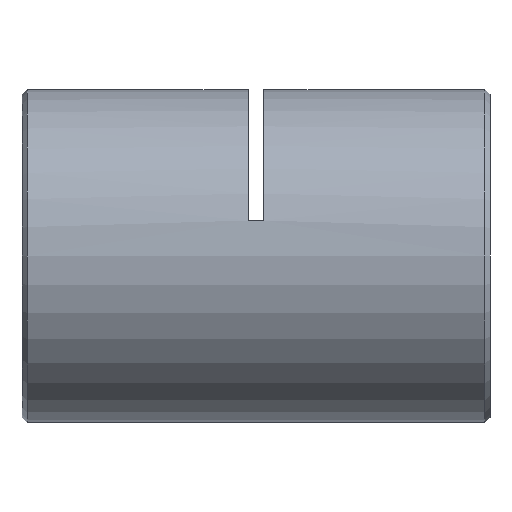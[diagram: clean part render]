
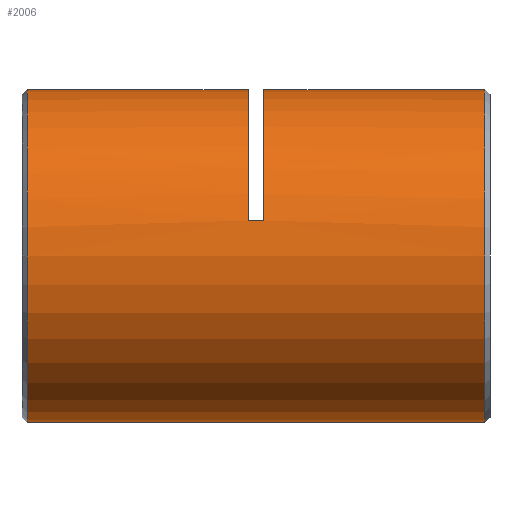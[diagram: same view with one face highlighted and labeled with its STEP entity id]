
A CAD part, left-side view. The second image highlights one B-rep face of the part: STEP entity #2006.
In plain terms, the highlighted cylindrical face has radius 16 mm (diameter 32 mm), a partial arc.
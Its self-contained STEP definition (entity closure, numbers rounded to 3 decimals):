
#71 = CARTESIAN_POINT ( 'NONE',  ( 0., 0., 16. ) ) ;
#100 = CARTESIAN_POINT ( 'NONE',  ( -15.632, 23.5, 3.413 ) ) ;
#208 = LINE ( 'NONE', #6051, #1409 ) ;
#230 = CARTESIAN_POINT ( 'NONE',  ( 0., 22., 0. ) ) ;
#246 = EDGE_CURVE ( 'NONE', #2190, #3614, #2725, .T. ) ;
#274 = CIRCLE ( 'NONE', #1114, 16. ) ;
#433 = EDGE_CURVE ( 'NONE', #2356, #3669, #274, .T. ) ;
#456 = DIRECTION ( 'NONE',  ( 0., 1., 0. ) ) ;
#492 = CARTESIAN_POINT ( 'NONE',  ( 0., 44.75, 16. ) ) ;
#782 = CARTESIAN_POINT ( 'NONE',  ( -15.632, 22., 3.413 ) ) ;
#839 = VECTOR ( 'NONE', #5132, 1000. ) ;
#876 = CARTESIAN_POINT ( 'NONE',  ( 0., 23.5, 0. ) ) ;
#985 = ORIENTED_EDGE ( 'NONE', *, *, #433, .F. ) ;
#1007 = CARTESIAN_POINT ( 'NONE',  ( 0., 0.75, 16. ) ) ;
#1114 = AXIS2_PLACEMENT_3D ( 'NONE', #230, #2694, #2889 ) ;
#1264 = EDGE_CURVE ( 'NONE', #2143, #2888, #4130, .T. ) ;
#1270 = EDGE_CURVE ( 'NONE', #2143, #3614, #4621, .T. ) ;
#1312 = EDGE_CURVE ( 'NONE', #4083, #2048, #1352, .T. ) ;
#1326 = ORIENTED_EDGE ( 'NONE', *, *, #1270, .F. ) ;
#1352 = CIRCLE ( 'NONE', #2876, 16. ) ;
#1368 = CARTESIAN_POINT ( 'NONE',  ( 0., 23.5, 16. ) ) ;
#1405 = AXIS2_PLACEMENT_3D ( 'NONE', #1919, #3993, #4444 ) ;
#1409 = VECTOR ( 'NONE', #2153, 1000. ) ;
#1443 = AXIS2_PLACEMENT_3D ( 'NONE', #6203, #3675, #6235 ) ;
#1708 = AXIS2_PLACEMENT_3D ( 'NONE', #4891, #456, #2318 ) ;
#1752 = ORIENTED_EDGE ( 'NONE', *, *, #1312, .T. ) ;
#1794 = CARTESIAN_POINT ( 'NONE',  ( 0., 0., -16. ) ) ;
#1919 = CARTESIAN_POINT ( 'NONE',  ( 0., 44.75, 0. ) ) ;
#2006 = ADVANCED_FACE ( 'NONE', ( #2291 ), #2899, .T. ) ;
#2048 = VERTEX_POINT ( 'NONE', #1368 ) ;
#2136 = DIRECTION ( 'NONE',  ( 0., 1., 0. ) ) ;
#2143 = VERTEX_POINT ( 'NONE', #5013 ) ;
#2153 = DIRECTION ( 'NONE',  ( 0., 1., 0. ) ) ;
#2190 = VERTEX_POINT ( 'NONE', #492 ) ;
#2291 = FACE_OUTER_BOUND ( 'NONE', #2887, .T. ) ;
#2318 = DIRECTION ( 'NONE',  ( 0., 0., 1. ) ) ;
#2356 = VERTEX_POINT ( 'NONE', #782 ) ;
#2426 = DIRECTION ( 'NONE',  ( 0., 1., 0. ) ) ;
#2533 = CARTESIAN_POINT ( 'NONE',  ( 0., 22., 16. ) ) ;
#2536 = VECTOR ( 'NONE', #2136, 1000. ) ;
#2694 = DIRECTION ( 'NONE',  ( 0., 1., 0. ) ) ;
#2725 = CIRCLE ( 'NONE', #1405, 16. ) ;
#2876 = AXIS2_PLACEMENT_3D ( 'NONE', #876, #2426, #3344 ) ;
#2887 = EDGE_LOOP ( 'NONE', ( #1326, #5599, #3941, #985, #4799, #1752, #5943, #4068 ) ) ;
#2888 = VERTEX_POINT ( 'NONE', #1007 ) ;
#2889 = DIRECTION ( 'NONE',  ( 0., 0., 1. ) ) ;
#2899 = CYLINDRICAL_SURFACE ( 'NONE', #1708, 16. ) ;
#3013 = EDGE_CURVE ( 'NONE', #2048, #2190, #4479, .T. ) ;
#3344 = DIRECTION ( 'NONE',  ( 0., 0., 1. ) ) ;
#3614 = VERTEX_POINT ( 'NONE', #5294 ) ;
#3669 = VERTEX_POINT ( 'NONE', #2533 ) ;
#3675 = DIRECTION ( 'NONE',  ( 0., 1., 0. ) ) ;
#3941 = ORIENTED_EDGE ( 'NONE', *, *, #4870, .T. ) ;
#3993 = DIRECTION ( 'NONE',  ( 0., -1., 0. ) ) ;
#4068 = ORIENTED_EDGE ( 'NONE', *, *, #246, .T. ) ;
#4083 = VERTEX_POINT ( 'NONE', #100 ) ;
#4130 = CIRCLE ( 'NONE', #1443, 16. ) ;
#4354 = LINE ( 'NONE', #5423, #6121 ) ;
#4444 = DIRECTION ( 'NONE',  ( 0., 0., -1. ) ) ;
#4448 = DIRECTION ( 'NONE',  ( 0., 1., 0. ) ) ;
#4479 = LINE ( 'NONE', #71, #2536 ) ;
#4621 = LINE ( 'NONE', #1794, #839 ) ;
#4799 = ORIENTED_EDGE ( 'NONE', *, *, #5097, .T. ) ;
#4870 = EDGE_CURVE ( 'NONE', #2888, #3669, #208, .T. ) ;
#4891 = CARTESIAN_POINT ( 'NONE',  ( 0., 0., 0. ) ) ;
#5013 = CARTESIAN_POINT ( 'NONE',  ( 0., 0.75, -16. ) ) ;
#5097 = EDGE_CURVE ( 'NONE', #2356, #4083, #4354, .T. ) ;
#5132 = DIRECTION ( 'NONE',  ( 0., 1., 0. ) ) ;
#5294 = CARTESIAN_POINT ( 'NONE',  ( 0., 44.75, -16. ) ) ;
#5423 = CARTESIAN_POINT ( 'NONE',  ( -15.632, 22.75, 3.413 ) ) ;
#5599 = ORIENTED_EDGE ( 'NONE', *, *, #1264, .T. ) ;
#5943 = ORIENTED_EDGE ( 'NONE', *, *, #3013, .T. ) ;
#6051 = CARTESIAN_POINT ( 'NONE',  ( 0., 0., 16. ) ) ;
#6121 = VECTOR ( 'NONE', #4448, 1000. ) ;
#6203 = CARTESIAN_POINT ( 'NONE',  ( 0., 0.75, 0. ) ) ;
#6235 = DIRECTION ( 'NONE',  ( 0., 0., 1. ) ) ;
